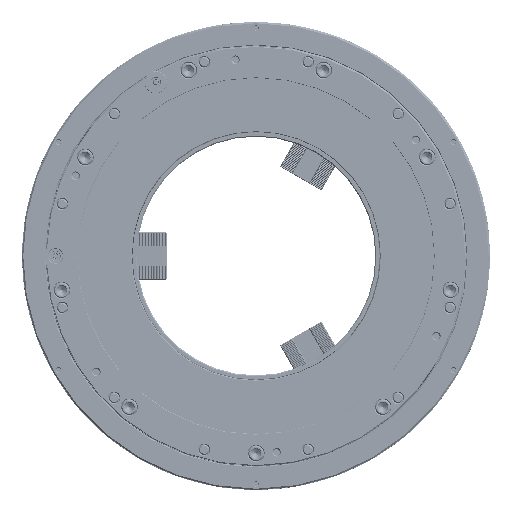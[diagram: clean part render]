
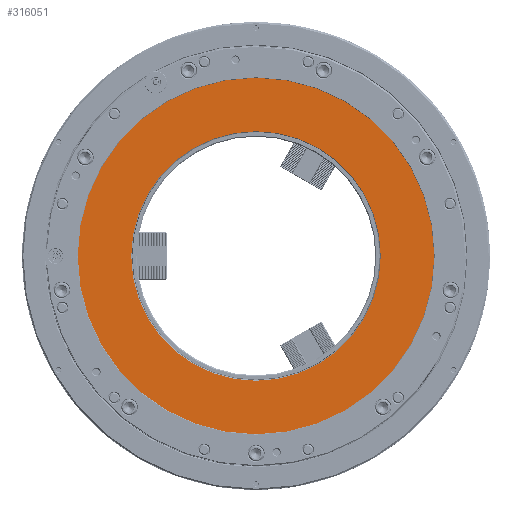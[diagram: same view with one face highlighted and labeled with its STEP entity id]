
A CAD part, left-side view. The second image highlights one B-rep face of the part: STEP entity #316051.
In plain terms, the highlighted planar face has unit normal (-1, 0, 0).
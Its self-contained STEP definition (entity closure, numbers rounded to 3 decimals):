
#11891 = DIRECTION ( 'NONE',  ( 1., 0., 0. ) ) ;
#17931 = AXIS2_PLACEMENT_3D ( 'NONE', #232966, #11891, #110336 ) ;
#20226 = CARTESIAN_POINT ( 'NONE',  ( -20., 0., -196. ) ) ;
#22273 = CARTESIAN_POINT ( 'NONE',  ( -20., 196., 0. ) ) ;
#24859 = CARTESIAN_POINT ( 'NONE',  ( -20., 0., 0. ) ) ;
#32582 = EDGE_LOOP ( 'NONE', ( #172399, #125089 ) ) ;
#33362 = CIRCLE ( 'NONE', #162147, 280. ) ;
#42464 = EDGE_CURVE ( 'NONE', #298481, #91023, #157116, .T. ) ;
#48776 = EDGE_CURVE ( 'NONE', #221706, #197048, #33362, .T. ) ;
#56174 = EDGE_CURVE ( 'NONE', #91023, #298481, #113008, .T. ) ;
#67508 = FACE_OUTER_BOUND ( 'NONE', #32582, .T. ) ;
#91023 = VERTEX_POINT ( 'NONE', #277924 ) ;
#104516 = DIRECTION ( 'NONE',  ( 0., 0., 1. ) ) ;
#106520 = ORIENTED_EDGE ( 'NONE', *, *, #42464, .T. ) ;
#110336 = DIRECTION ( 'NONE',  ( 0., 0., 1. ) ) ;
#113008 = CIRCLE ( 'NONE', #185085, 196. ) ;
#119134 = DIRECTION ( 'NONE',  ( 0., 0., -1. ) ) ;
#123286 = DIRECTION ( 'NONE',  ( 0., 0., 1. ) ) ;
#125089 = ORIENTED_EDGE ( 'NONE', *, *, #48776, .F. ) ;
#129031 = CARTESIAN_POINT ( 'NONE',  ( -20., 0., 280. ) ) ;
#140145 = FACE_BOUND ( 'NONE', #179291, .T. ) ;
#141633 = AXIS2_PLACEMENT_3D ( 'NONE', #22273, #169147, #119134 ) ;
#146500 = DIRECTION ( 'NONE',  ( 1., 0., 0. ) ) ;
#157116 = CIRCLE ( 'NONE', #17931, 196. ) ;
#162147 = AXIS2_PLACEMENT_3D ( 'NONE', #307500, #188029, #259063 ) ;
#169092 = CIRCLE ( 'NONE', #231060, 280. ) ;
#169147 = DIRECTION ( 'NONE',  ( 1., 0., 0. ) ) ;
#172399 = ORIENTED_EDGE ( 'NONE', *, *, #264928, .F. ) ;
#179291 = EDGE_LOOP ( 'NONE', ( #274301, #106520 ) ) ;
#185085 = AXIS2_PLACEMENT_3D ( 'NONE', #24859, #249072, #123286 ) ;
#188029 = DIRECTION ( 'NONE',  ( 1., 0., 0. ) ) ;
#194928 = PLANE ( 'NONE',  #141633 ) ;
#197048 = VERTEX_POINT ( 'NONE', #129031 ) ;
#221706 = VERTEX_POINT ( 'NONE', #225660 ) ;
#225660 = CARTESIAN_POINT ( 'NONE',  ( -20., 0., -280. ) ) ;
#231060 = AXIS2_PLACEMENT_3D ( 'NONE', #269112, #146500, #104516 ) ;
#232966 = CARTESIAN_POINT ( 'NONE',  ( -20., 0., 0. ) ) ;
#249072 = DIRECTION ( 'NONE',  ( 1., 0., 0. ) ) ;
#259063 = DIRECTION ( 'NONE',  ( 0., 0., 1. ) ) ;
#264928 = EDGE_CURVE ( 'NONE', #197048, #221706, #169092, .T. ) ;
#269112 = CARTESIAN_POINT ( 'NONE',  ( -20., 0., 0. ) ) ;
#274301 = ORIENTED_EDGE ( 'NONE', *, *, #56174, .T. ) ;
#277924 = CARTESIAN_POINT ( 'NONE',  ( -20., 0., 196. ) ) ;
#298481 = VERTEX_POINT ( 'NONE', #20226 ) ;
#307500 = CARTESIAN_POINT ( 'NONE',  ( -20., 0., 0. ) ) ;
#316051 = ADVANCED_FACE ( 'NONE', ( #67508, #140145 ), #194928, .F. ) ;
